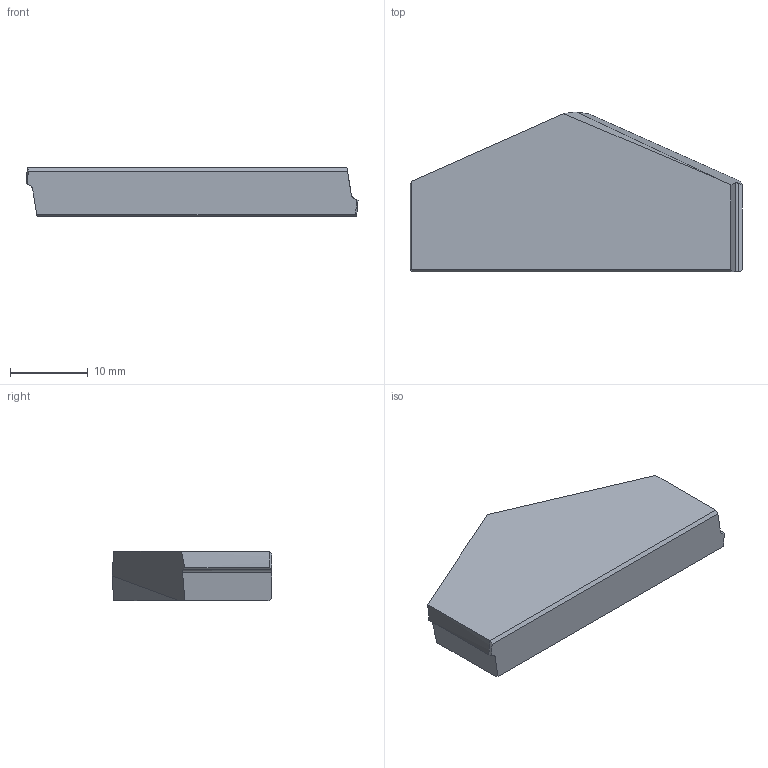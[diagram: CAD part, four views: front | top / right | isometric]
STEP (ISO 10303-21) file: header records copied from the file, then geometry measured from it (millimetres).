
FILE_DESCRIPTION (( 'STEP AP214' ), '1' );
FILE_NAME ('02-1064.STEP', '2022-06-24T05:47:52', ( '' ), ( '' ), 'SwSTEP 2.0', 'SolidWorks 2018', '' );
FILE_SCHEMA (( 'AUTOMOTIVE_DESIGN' ));
Length unit declared in the file: millimetre
Products named in the file (1): 02-1064
Bounding box: 42.81 x 20.6 x 6.4 mm (x, y, z)
Volume: 4218.2 mm3; surface area: 2008.8 mm2
Topology: 1 solids, 1 shells, 19 faces, 50 edges, 33 vertices
Faces by surface type: plane 13, cylinder 4, cone 2
Entity records: 620 total; most frequent: CARTESIAN_POINT 133, ORIENTED_EDGE 100, DIRECTION 86, EDGE_CURVE 50, VECTOR 34, LINE 34, VERTEX_POINT 33, AXIS2_PLACEMENT_3D 26
